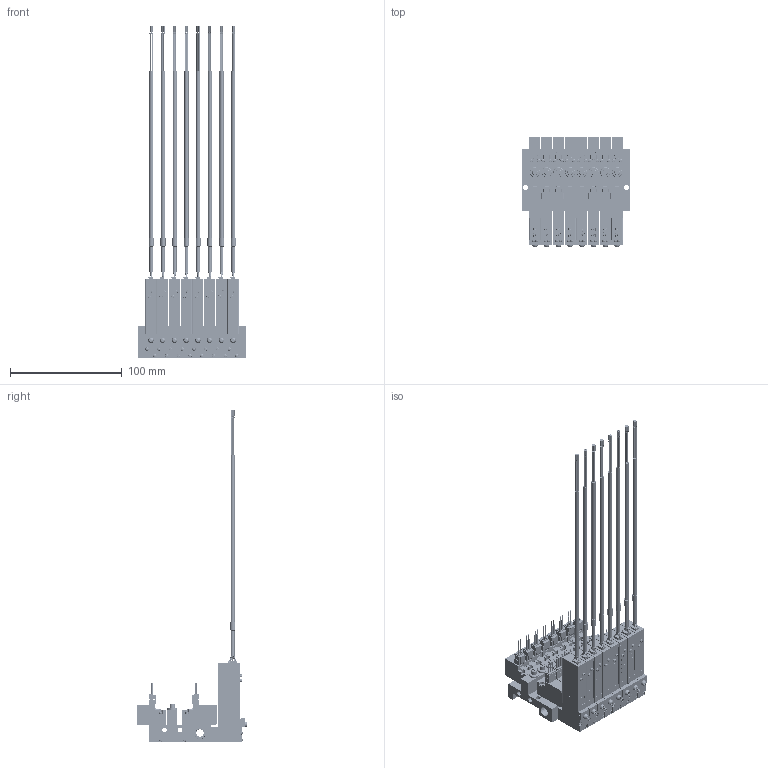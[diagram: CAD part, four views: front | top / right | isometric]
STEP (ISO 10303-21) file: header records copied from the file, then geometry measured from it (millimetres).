
FILE_DESCRIPTION(('STEP AP203'),'1');
FILE_NAME('1-L-4EZ-M08-V9.stp','2025-05-09T01:40:01',(' '),(' '),'Spatial InterOp 3D',' ',' ');
FILE_SCHEMA(('CONFIG_CONTROL_DESIGN'));
Length unit declared in the file: millimetre
Products named in the file (234): PV1※1-L-4EZ-M08-V9; BODY; PLATE; NEEDLE; BOLT; SOLENOID VALVE VOLTAGE PV; 42; 45; 48; 51; BRAKET(MPS-V9  PV-L용)NEW; BRAKET; MPS-V9AC.ics; __1; MPS-V9AC; MSBR-1_1; MSBR-4_1; MSBR-7_1; MSBR-21_1; MSBR-24_1; MSBR-25_1; MSBR-26_1; MSBR-27_1; MSBR-28_1; MSBR-29_1; SOLENOID VALVE PV101-W
Assembly tree (233 placements, depth 5):
  PV1※1-L-4EZ-M08-V9
    BODY
    PLATE
    PLATE
    NEEDLE
    BOLT
    BOLT
    BOLT
    BOLT
    BOLT
    BOLT
    SOLENOID VALVE VOLTAGE PV
      42
      45
      48
      51
    NEEDLE
    SOLENOID VALVE VOLTAGE PV
      42
      45
      48
      51
    NEEDLE
    SOLENOID VALVE VOLTAGE PV
      42
      45
      48
      51
    PLATE
    BOLT
    BOLT
    BOLT
    PLATE
    BOLT
    BOLT
    BOLT
    NEEDLE
    SOLENOID VALVE VOLTAGE PV
      42
      45
      48
      51
    NEEDLE
    SOLENOID VALVE VOLTAGE PV
      42
      45
      48
      51
    PLATE
    BOLT
    BOLT
    BOLT
    SOLENOID VALVE VOLTAGE PV
      42
      45
      48
      51
    NEEDLE
    PLATE
    BOLT
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Bounding box: 97.5 x 99.29 x 297.25 mm (x, y, z)
Volume: 227602.4 mm3; surface area: 195118.9 mm2
Topology: 193 solids, 265 shells, 9689 faces, 26342 edges, 17753 vertices
Faces by surface type: plane 7560, cylinder 1623, torus 184, bspline 120, cone 90, extrusion 80, sphere 32
Full cylindrical faces by diameter (mm): 1.4 x24, 2 x24, 2.3 x16, 2.5 x8, 3 x56, 3.5 x8, 4.2 x18, 4.5 x2, 5 x16, 6.5 x1, 8.797 x2, 9 x8
Entity records: 318146 total; most frequent: CARTESIAN_POINT 61239, ORIENTED_EDGE 50872, DIRECTION 49290, EDGE_CURVE 25740, VECTOR 20020, LINE 19940, VERTEX_POINT 17544, AXIS2_PLACEMENT_3D 14635
